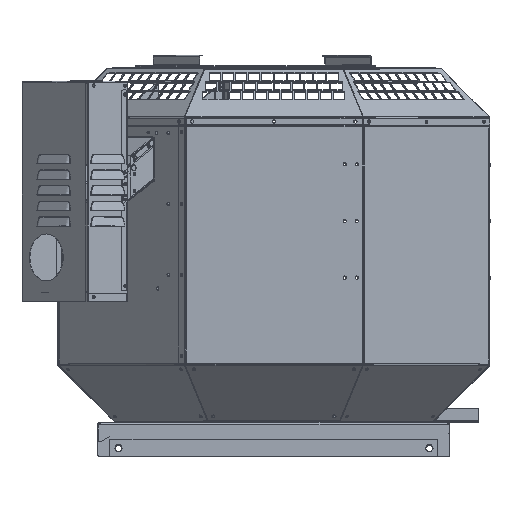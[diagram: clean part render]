
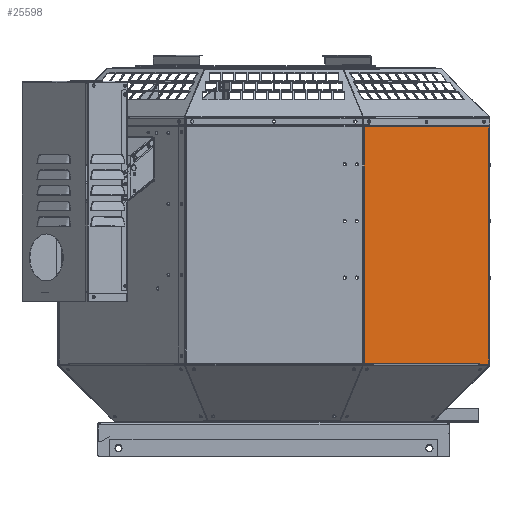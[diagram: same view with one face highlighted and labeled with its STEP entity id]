
A CAD part, top view. The second image highlights one B-rep face of the part: STEP entity #25598.
In plain terms, the highlighted planar face has unit normal (0.707, 0, 0.707).
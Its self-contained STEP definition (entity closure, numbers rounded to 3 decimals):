
#5605 = VECTOR ( 'NONE', #102206, 1000. ) ;
#9568 = FACE_OUTER_BOUND ( 'NONE', #66200, .T. ) ;
#13043 = AXIS2_PLACEMENT_3D ( 'NONE', #102397, #23559, #48909 ) ;
#15195 = VERTEX_POINT ( 'NONE', #79304 ) ;
#18724 = CARTESIAN_POINT ( 'NONE',  ( 119.099, 410.409, 283.245 ) ) ;
#19937 = CARTESIAN_POINT ( 'NONE',  ( 283.245, 410.409, 119.099 ) ) ;
#21677 = VECTOR ( 'NONE', #57840, 1000. ) ;
#22288 = ORIENTED_EDGE ( 'NONE', *, *, #32355, .T. ) ;
#22796 = CARTESIAN_POINT ( 'NONE',  ( 283.245, 408.402, 119.099 ) ) ;
#23559 = DIRECTION ( 'NONE',  ( 0.707, 0., 0.707 ) ) ;
#25259 = DIRECTION ( 'NONE',  ( 0.707, 0., -0.707 ) ) ;
#25598 = ADVANCED_FACE ( 'NONE', ( #9568 ), #28699, .T. ) ;
#28699 = PLANE ( 'NONE',  #13043 ) ;
#32355 = EDGE_CURVE ( 'NONE', #53324, #46264, #90276, .T. ) ;
#33714 = CARTESIAN_POINT ( 'NONE',  ( 284.207, 410.409, 118.137 ) ) ;
#36218 = LINE ( 'NONE', #53761, #100750 ) ;
#37265 = CARTESIAN_POINT ( 'NONE',  ( 119.099, 408.402, 283.245 ) ) ;
#39361 = ORIENTED_EDGE ( 'NONE', *, *, #55352, .T. ) ;
#42265 = LINE ( 'NONE', #110414, #21677 ) ;
#42461 = CARTESIAN_POINT ( 'NONE',  ( 283.563, 422.402, 118.781 ) ) ;
#44328 = CARTESIAN_POINT ( 'NONE',  ( 118.781, 408.402, 283.563 ) ) ;
#44775 = ORIENTED_EDGE ( 'NONE', *, *, #64801, .F. ) ;
#45467 = CARTESIAN_POINT ( 'NONE',  ( 118.781, 422.402, 283.563 ) ) ;
#46264 = VERTEX_POINT ( 'NONE', #60166 ) ;
#48909 = DIRECTION ( 'NONE',  ( 0.707, 0., -0.707 ) ) ;
#52676 = ORIENTED_EDGE ( 'NONE', *, *, #67970, .T. ) ;
#53012 = ORIENTED_EDGE ( 'NONE', *, *, #56016, .T. ) ;
#53324 = VERTEX_POINT ( 'NONE', #44328 ) ;
#53761 = CARTESIAN_POINT ( 'NONE',  ( 283.245, 422.402, 119.099 ) ) ;
#53895 = LINE ( 'NONE', #97678, #97803 ) ;
#54993 = VERTEX_POINT ( 'NONE', #22796 ) ;
#55352 = EDGE_CURVE ( 'NONE', #54993, #79251, #36218, .T. ) ;
#56016 = EDGE_CURVE ( 'NONE', #102027, #53324, #89581, .T. ) ;
#57527 = ORIENTED_EDGE ( 'NONE', *, *, #87092, .F. ) ;
#57840 = DIRECTION ( 'NONE',  ( -0.707, 0., 0.707 ) ) ;
#60166 = CARTESIAN_POINT ( 'NONE',  ( 118.781, 97.802, 283.563 ) ) ;
#64801 = EDGE_CURVE ( 'NONE', #15195, #46264, #42265, .T. ) ;
#64932 = EDGE_CURVE ( 'NONE', #95901, #15195, #101299, .T. ) ;
#66200 = EDGE_LOOP ( 'NONE', ( #57527, #96692, #53012, #22288, #44775, #77971, #52676, #39361 ) ) ;
#66933 = VECTOR ( 'NONE', #96139, 1000. ) ;
#67970 = EDGE_CURVE ( 'NONE', #95901, #54993, #53895, .T. ) ;
#70137 = VERTEX_POINT ( 'NONE', #18724 ) ;
#71225 = DIRECTION ( 'NONE',  ( -0.707, 0., 0.707 ) ) ;
#77906 = VECTOR ( 'NONE', #95016, 1000. ) ;
#77971 = ORIENTED_EDGE ( 'NONE', *, *, #64932, .F. ) ;
#79251 = VERTEX_POINT ( 'NONE', #19937 ) ;
#79304 = CARTESIAN_POINT ( 'NONE',  ( 283.563, 97.802, 118.781 ) ) ;
#80211 = DIRECTION ( 'NONE',  ( 0., 1., 0. ) ) ;
#81020 = LINE ( 'NONE', #93363, #5605 ) ;
#82583 = EDGE_CURVE ( 'NONE', #70137, #102027, #81020, .T. ) ;
#87092 = EDGE_CURVE ( 'NONE', #70137, #79251, #112973, .T. ) ;
#88893 = CARTESIAN_POINT ( 'NONE',  ( 119.099, 408.402, 283.245 ) ) ;
#89581 = LINE ( 'NONE', #88893, #110217 ) ;
#89631 = VECTOR ( 'NONE', #25259, 1000. ) ;
#90276 = LINE ( 'NONE', #45467, #66933 ) ;
#93363 = CARTESIAN_POINT ( 'NONE',  ( 119.099, 422.402, 283.245 ) ) ;
#95016 = DIRECTION ( 'NONE',  ( 0., -1., 0. ) ) ;
#95901 = VERTEX_POINT ( 'NONE', #110521 ) ;
#96139 = DIRECTION ( 'NONE',  ( 0., -1., 0. ) ) ;
#96692 = ORIENTED_EDGE ( 'NONE', *, *, #82583, .T. ) ;
#97678 = CARTESIAN_POINT ( 'NONE',  ( 283.245, 408.402, 119.099 ) ) ;
#97803 = VECTOR ( 'NONE', #106562, 1000. ) ;
#100750 = VECTOR ( 'NONE', #80211, 1000. ) ;
#101299 = LINE ( 'NONE', #42461, #77906 ) ;
#102027 = VERTEX_POINT ( 'NONE', #37265 ) ;
#102206 = DIRECTION ( 'NONE',  ( 0., -1., 0. ) ) ;
#102397 = CARTESIAN_POINT ( 'NONE',  ( 284.207, 422.402, 118.137 ) ) ;
#106562 = DIRECTION ( 'NONE',  ( -0.707, 0., 0.707 ) ) ;
#110217 = VECTOR ( 'NONE', #71225, 1000. ) ;
#110414 = CARTESIAN_POINT ( 'NONE',  ( 284.207, 97.802, 118.137 ) ) ;
#110521 = CARTESIAN_POINT ( 'NONE',  ( 283.563, 408.402, 118.781 ) ) ;
#112973 = LINE ( 'NONE', #33714, #89631 ) ;
